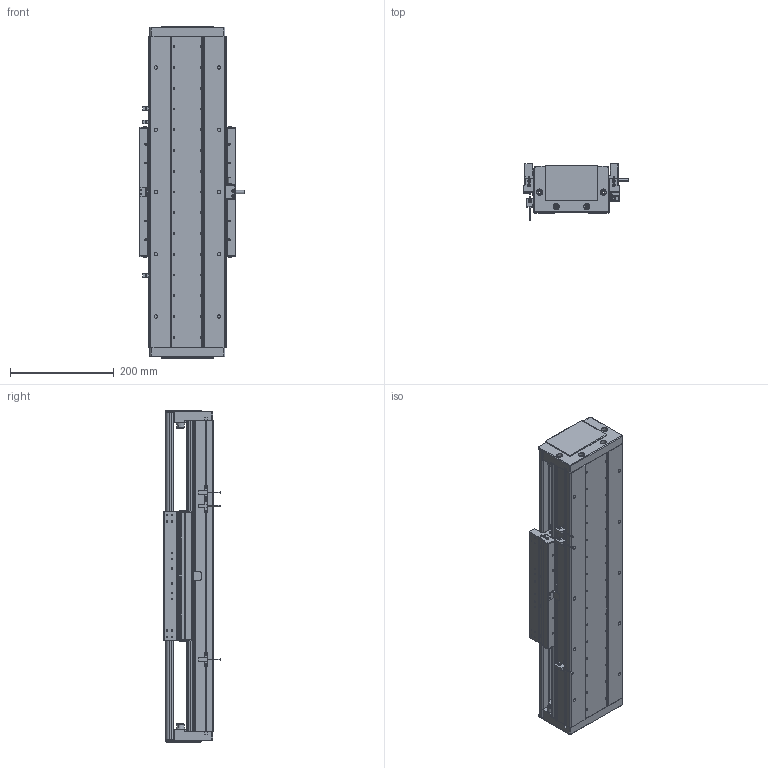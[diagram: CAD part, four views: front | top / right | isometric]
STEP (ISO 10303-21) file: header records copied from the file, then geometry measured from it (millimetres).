
FILE_DESCRIPTION (( 'STEP AP203' ), '1' );
FILE_NAME ('DA-C145-C3-T300-C010-0.2 眻盄萇儂.STEP', '2025-08-14T01:15:19', ( '' ), ( '' ), 'SwSTEP 2.0', 'SolidWorks 2019', '' );
FILE_SCHEMA (( 'CONFIG_CONTROL_DESIGN' ));
Length unit declared in the file: millimetre
Products named in the file (29): 复件 纯铜油杯 6x6mm^CU145-W 滚珠滑台; CU145-W 幗紩賑怢; 复件 内六角平端紧定螺钉 GB.T77-2000 M5×10^CU145-W 滚珠滑台; 复件 DA145-GYP-00 光电感应片^DA-C145-C3-T-C010-0.2; 66245-CU145-HT-W-00 賑雄怢啣(3D芞祧)(00); DA-C145-C3-T300-C010-0.2 眻盄萇儂; 葩璃 鞠褒情蹟譫 M3^DA-C145-C3-T-C010-0.2; 复件 DA95-DB-00  挡板^CU145-W 滚珠滑台; 葩璃 DA145-C3-DP-B-00 菜えB^CU145-W 幗紩賑怢; 葩璃 DMA-010-0.2 黍杅芛^DA-C145-C3-T-C010-0.2; 复件 DA145-C3-YB-A-00 压板A^CU145-W 滚珠滑台; 葩璃 CKMA01-W060-TRL^DA-C145-C3-T-C010-0.2; 葩璃 DA145-T-003-00 裔啣^DA-C145-C3-T-C010-0.2; 葩璃 DA95-GT-T-00^IU-CU145-L 菁釱絳寢; 复件 DA145-C3-DK-00 挡块^CU145-W 滚珠滑台; 葩璃 DA95-HXJ-00 遣喳砎蝶^DA-C145-C3-T-C010-0.2; 葩璃 XD-U-02L 棠掑喜^DA-C145-C3-T-C010-0.2; TAY01-M8; 复件 DA95-HK-GT-00 滑块钢轨^CU145-W-00 一体化滑动台板; IU-CU145-L 菁釱絳寢; 葩璃 PM-T45^DA-C145-C3-T-C010-0.2; 葩璃 CKM03-W060-C1C2-TP-0.2^DA-C145-C3-T-C010-0.2; 葩璃 DA145-DG-H-N-00 傷裔^DA-C145-C3-T-C010-0.2; CU145-W-00 珨极趙賑雄怢啣; 复件 DA95-MFP-01 密封片^CU145-W 滚珠滑台; IU-CU145-L-00 菁釱(L600); 葩璃 DA145-C3-DP-A-00 菜えA^CU145-W 幗紩賑怢; 复件 半圆头内六角螺钉 M3×6^CU145-W 滚珠滑台; 复件 DA145-C3-YB-B-00 压板B^CU145-W 滚珠滑台
Assembly tree (98 placements, depth 4):
  DA-C145-C3-T300-C010-0.2 眻盄萇儂
    IU-CU145-L 菁釱絳寢
      IU-CU145-L-00 菁釱(L600)
      葩璃 DA95-GT-T-00^IU-CU145-L 菁釱絳寢  x4
    CU145-W 幗紩賑怢
      CU145-W-00 珨极趙賑雄怢啣
        66245-CU145-HT-W-00 賑雄怢啣(3D芞祧)(00)
        复件 DA95-HK-GT-00 滑块钢轨^CU145-W-00 一体化滑动台板  x8
      复件 DA95-MFP-01 密封片^CU145-W 滚珠滑台  x8
      复件 DA95-DB-00  挡板^CU145-W 滚珠滑台  x8
      复件 内六角平端紧定螺钉 GB.T77-2000 M5×10^CU145-W 滚珠滑台  x4
      复件 纯铜油杯 6x6mm^CU145-W 滚珠滑台  x4
      复件 半圆头内六角螺钉 M3×6^CU145-W 滚珠滑台  x16
      复件 DA145-C3-DK-00 挡块^CU145-W 滚珠滑台  x4
      葩璃 DA145-C3-DP-B-00 菜えB^CU145-W 幗紩賑怢  x2
      复件 DA145-C3-YB-B-00 压板B^CU145-W 滚珠滑台  x2
      葩璃 DA145-C3-DP-A-00 菜えA^CU145-W 幗紩賑怢  x3
      复件 DA145-C3-YB-A-00 压板A^CU145-W 滚珠滑台  x3
      TAY01-M8  x4
    葩璃 CKMA01-W060-TRL^DA-C145-C3-T-C010-0.2
    葩璃 PM-T45^DA-C145-C3-T-C010-0.2  x3
    葩璃 XD-U-02L 棠掑喜^DA-C145-C3-T-C010-0.2
    葩璃 DA145-DG-H-N-00 傷裔^DA-C145-C3-T-C010-0.2  x2
    葩璃 DA145-T-003-00 裔啣^DA-C145-C3-T-C010-0.2
    葩璃 DA95-HXJ-00 遣喳砎蝶^DA-C145-C3-T-C010-0.2  x4
    复件 DA145-GYP-00 光电感应片^DA-C145-C3-T-C010-0.2
    葩璃 DMA-010-0.2 黍杅芛^DA-C145-C3-T-C010-0.2
    葩璃 CKM03-W060-C1C2-TP-0.2^DA-C145-C3-T-C010-0.2
    葩璃 鞠褒情蹟譫 M3^DA-C145-C3-T-C010-0.2  x8
Bounding box: 203.5 x 108.45 x 640 mm (x, y, z)
Volume: 5116173.3 mm3; surface area: 1398487.2 mm2
Topology: 95 solids, 127 shells, 3785 faces, 9807 edges, 6016 vertices
Faces by surface type: plane 1567, cylinder 1502, cone 626, torus 86, sphere 4
Entity records: 80493 total; most frequent: CARTESIAN_POINT 18402, DIRECTION 12229, ORIENTED_EDGE 11612, EDGE_CURVE 5806, AXIS2_PLACEMENT_3D 4536, VERTEX_POINT 3705, LINE 3157, VECTOR 3157
